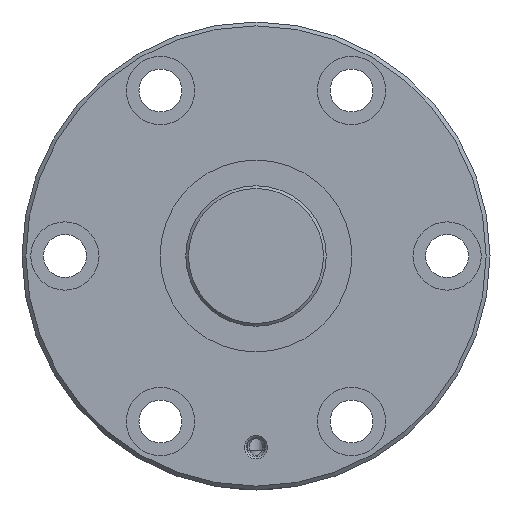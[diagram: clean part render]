
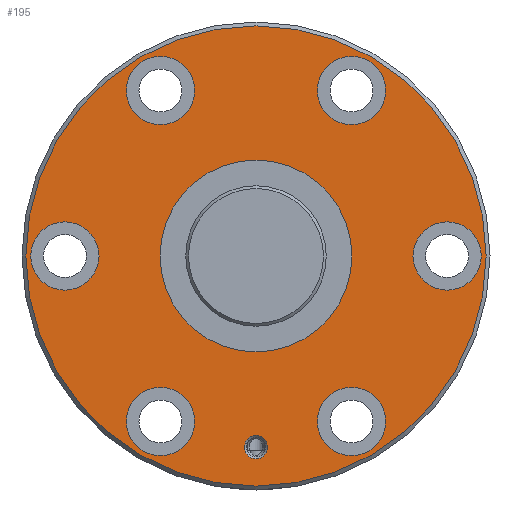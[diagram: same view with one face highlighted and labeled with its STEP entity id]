
A CAD part, left-side view. The second image highlights one B-rep face of the part: STEP entity #195.
In plain terms, the highlighted planar face has unit normal (-1, 0, 0).
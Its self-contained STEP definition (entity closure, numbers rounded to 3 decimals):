
#195 = ADVANCED_FACE( '', ( #345, #346, #347, #348, #349, #350, #351, #352, #353 ), #354, .T. );
#345 = FACE_BOUND( '', #639, .T. );
#346 = FACE_BOUND( '', #640, .T. );
#347 = FACE_BOUND( '', #641, .T. );
#348 = FACE_BOUND( '', #642, .T. );
#349 = FACE_BOUND( '', #643, .T. );
#350 = FACE_BOUND( '', #644, .T. );
#351 = FACE_BOUND( '', #645, .T. );
#352 = FACE_BOUND( '', #646, .T. );
#353 = FACE_OUTER_BOUND( '', #647, .T. );
#354 = PLANE( '', #648 );
#639 = EDGE_LOOP( '', ( #986 ) );
#640 = EDGE_LOOP( '', ( #987 ) );
#641 = EDGE_LOOP( '', ( #988 ) );
#642 = EDGE_LOOP( '', ( #989 ) );
#643 = EDGE_LOOP( '', ( #990 ) );
#644 = EDGE_LOOP( '', ( #991 ) );
#645 = EDGE_LOOP( '', ( #992 ) );
#646 = EDGE_LOOP( '', ( #993 ) );
#647 = EDGE_LOOP( '', ( #994 ) );
#648 = AXIS2_PLACEMENT_3D( '', #995, #996, #997 );
#986 = ORIENTED_EDGE( '', *, *, #1513, .T. );
#987 = ORIENTED_EDGE( '', *, *, #1510, .T. );
#988 = ORIENTED_EDGE( '', *, *, #1499, .T. );
#989 = ORIENTED_EDGE( '', *, *, #1514, .T. );
#990 = ORIENTED_EDGE( '', *, *, #1515, .T. );
#991 = ORIENTED_EDGE( '', *, *, #1516, .T. );
#992 = ORIENTED_EDGE( '', *, *, #1517, .T. );
#993 = ORIENTED_EDGE( '', *, *, #1506, .T. );
#994 = ORIENTED_EDGE( '', *, *, #1518, .F. );
#995 = CARTESIAN_POINT( '', ( 0., 59., 0. ) );
#996 = DIRECTION( '', ( -1., 0., 0. ) );
#997 = DIRECTION( '', ( 0., 0., 1. ) );
#1499 = EDGE_CURVE( '', #1687, #1687, #1688, .T. );
#1506 = EDGE_CURVE( '', #1701, #1701, #1702, .T. );
#1510 = EDGE_CURVE( '', #1709, #1709, #1710, .F. );
#1513 = EDGE_CURVE( '', #1715, #1715, #1716, .T. );
#1514 = EDGE_CURVE( '', #1717, #1717, #1718, .T. );
#1515 = EDGE_CURVE( '', #1719, #1719, #1720, .T. );
#1516 = EDGE_CURVE( '', #1721, #1721, #1722, .T. );
#1517 = EDGE_CURVE( '', #1723, #1723, #1724, .T. );
#1518 = EDGE_CURVE( '', #1725, #1725, #1726, .T. );
#1687 = VERTEX_POINT( '', #2083 );
#1688 = CIRCLE( '', #2084, 3. );
#1701 = VERTEX_POINT( '', #2097 );
#1702 = CIRCLE( '', #2098, 8.75 );
#1709 = VERTEX_POINT( '', #2105 );
#1710 = CIRCLE( '', #2106, 8.75 );
#1715 = VERTEX_POINT( '', #2111 );
#1716 = CIRCLE( '', #2112, 24.6 );
#1717 = VERTEX_POINT( '', #2113 );
#1718 = CIRCLE( '', #2114, 8.75 );
#1719 = VERTEX_POINT( '', #2115 );
#1720 = CIRCLE( '', #2116, 8.75 );
#1721 = VERTEX_POINT( '', #2117 );
#1722 = CIRCLE( '', #2118, 8.75 );
#1723 = VERTEX_POINT( '', #2119 );
#1724 = CIRCLE( '', #2120, 8.75 );
#1725 = VERTEX_POINT( '', #2121 );
#1726 = CIRCLE( '', #2122, 59. );
#2083 = CARTESIAN_POINT( '', ( 0., 0., -52. ) );
#2084 = AXIS2_PLACEMENT_3D( '', #3025, #3026, #3027 );
#2097 = CARTESIAN_POINT( '', ( 0., -49., -8.75 ) );
#2098 = AXIS2_PLACEMENT_3D( '', #3046, #3047, #3048 );
#2105 = CARTESIAN_POINT( '', ( 0., 49., 8.75 ) );
#2106 = AXIS2_PLACEMENT_3D( '', #3058, #3059, #3060 );
#2111 = CARTESIAN_POINT( '', ( 0., 0., -24.6 ) );
#2112 = AXIS2_PLACEMENT_3D( '', #3067, #3068, #3069 );
#2113 = CARTESIAN_POINT( '', ( 0., 24.5, 33.685 ) );
#2114 = AXIS2_PLACEMENT_3D( '', #3070, #3071, #3072 );
#2115 = CARTESIAN_POINT( '', ( 0., -24.5, -51.185 ) );
#2116 = AXIS2_PLACEMENT_3D( '', #3073, #3074, #3075 );
#2117 = CARTESIAN_POINT( '', ( 0., -24.5, 33.685 ) );
#2118 = AXIS2_PLACEMENT_3D( '', #3076, #3077, #3078 );
#2119 = CARTESIAN_POINT( '', ( 0., 24.5, -51.185 ) );
#2120 = AXIS2_PLACEMENT_3D( '', #3079, #3080, #3081 );
#2121 = CARTESIAN_POINT( '', ( 0., 0., -59. ) );
#2122 = AXIS2_PLACEMENT_3D( '', #3082, #3083, #3084 );
#3025 = CARTESIAN_POINT( '', ( 0., 0., -49. ) );
#3026 = DIRECTION( '', ( 1., 0., 0. ) );
#3027 = DIRECTION( '', ( 0., 0., -1. ) );
#3046 = CARTESIAN_POINT( '', ( 0., -49., 0. ) );
#3047 = DIRECTION( '', ( 1., 0., 0. ) );
#3048 = DIRECTION( '', ( 0., 0., -1. ) );
#3058 = CARTESIAN_POINT( '', ( 0., 49., 0. ) );
#3059 = DIRECTION( '', ( -1., 0., 0. ) );
#3060 = DIRECTION( '', ( 0., 0., 1. ) );
#3067 = CARTESIAN_POINT( '', ( 0., 0., 0. ) );
#3068 = DIRECTION( '', ( 1., 0., 0. ) );
#3069 = DIRECTION( '', ( 0., 0., -1. ) );
#3070 = CARTESIAN_POINT( '', ( 0., 24.5, 42.435 ) );
#3071 = DIRECTION( '', ( 1., 0., 0. ) );
#3072 = DIRECTION( '', ( 0., 0., -1. ) );
#3073 = CARTESIAN_POINT( '', ( 0., -24.5, -42.435 ) );
#3074 = DIRECTION( '', ( 1., 0., 0. ) );
#3075 = DIRECTION( '', ( 0., 0., -1. ) );
#3076 = CARTESIAN_POINT( '', ( 0., -24.5, 42.435 ) );
#3077 = DIRECTION( '', ( 1., 0., 0. ) );
#3078 = DIRECTION( '', ( 0., 0., -1. ) );
#3079 = CARTESIAN_POINT( '', ( 0., 24.5, -42.435 ) );
#3080 = DIRECTION( '', ( 1., 0., 0. ) );
#3081 = DIRECTION( '', ( 0., 0., -1. ) );
#3082 = CARTESIAN_POINT( '', ( 0., 0., 0. ) );
#3083 = DIRECTION( '', ( 1., 0., 0. ) );
#3084 = DIRECTION( '', ( 0., 0., -1. ) );
